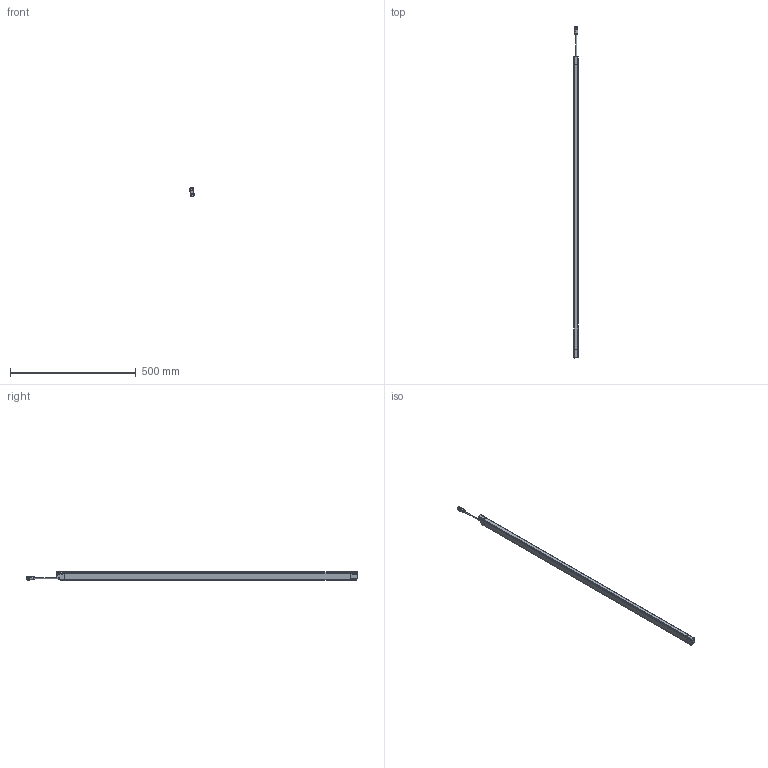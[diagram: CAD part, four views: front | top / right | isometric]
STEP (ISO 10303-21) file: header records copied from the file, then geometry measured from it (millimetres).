
FILE_DESCRIPTION(/* description */ (''),/* implementation_level */ '2;1');
FILE_NAME(/* name */ 'DSD-0655.stp',/* time_stamp */ '2015-02-23T17:57:22+01:00',/* author */ (''),/* organization */ (''),/* preprocessor_version */ 'ST-DEVELOPER v11',/* originating_system */ 'SIEMENS PLM Software NX 7.5',/* authorisation */ '');
FILE_SCHEMA (('AUTOMOTIVE_DESIGN { 1 0 10303 214 1 1 1 1 }'));
Length unit declared in the file: millimetre
Products named in the file (1): AP008177_00
Bounding box: 17.36 x 1320.24 x 33.46 mm (x, y, z)
Surface area: 141616.6 mm2 (no closed solid volume)
Topology: 0 solids, 41 shells, 968 faces, 3298 edges, 2265 vertices
Faces by surface type: cylinder 375, plane 271, bspline 134, torus 101, sphere 60, cone 27
Full cylindrical faces by diameter (mm): 1 x5, 1.2 x2, 2.6 x6, 4 x1, 8.3 x1, 9.4 x1, 10.4 x1, 12 x1, 13 x1, 13.5 x1, 14.5 x2
Entity records: 40688 total; most frequent: CARTESIAN_POINT 12797, DIRECTION 6036, ORIENTED_EDGE 5089, EDGE_CURVE 3194, AXIS2_PLACEMENT_3D 2300, VERTEX_POINT 2240, LINE 1436, VECTOR 1436
